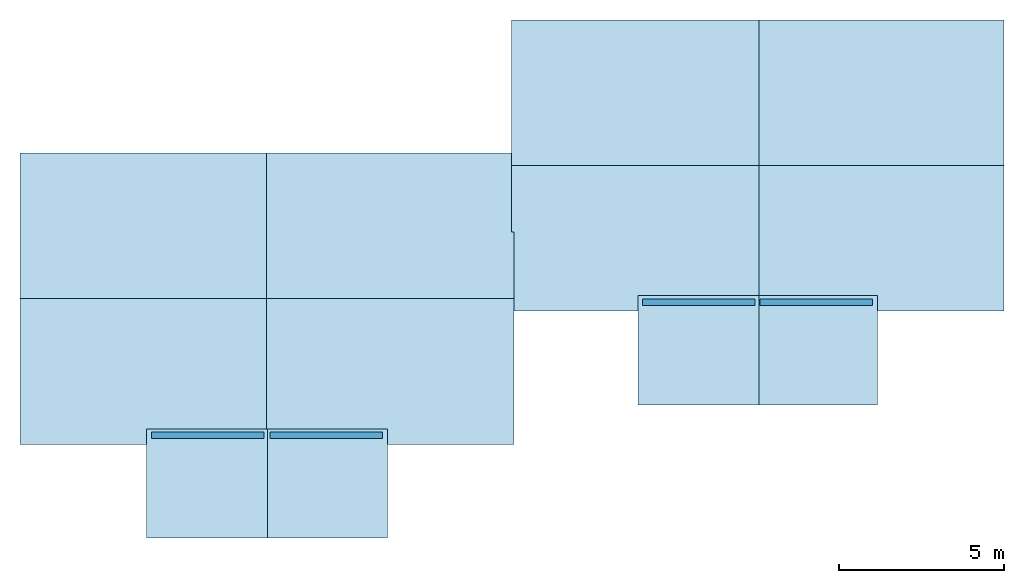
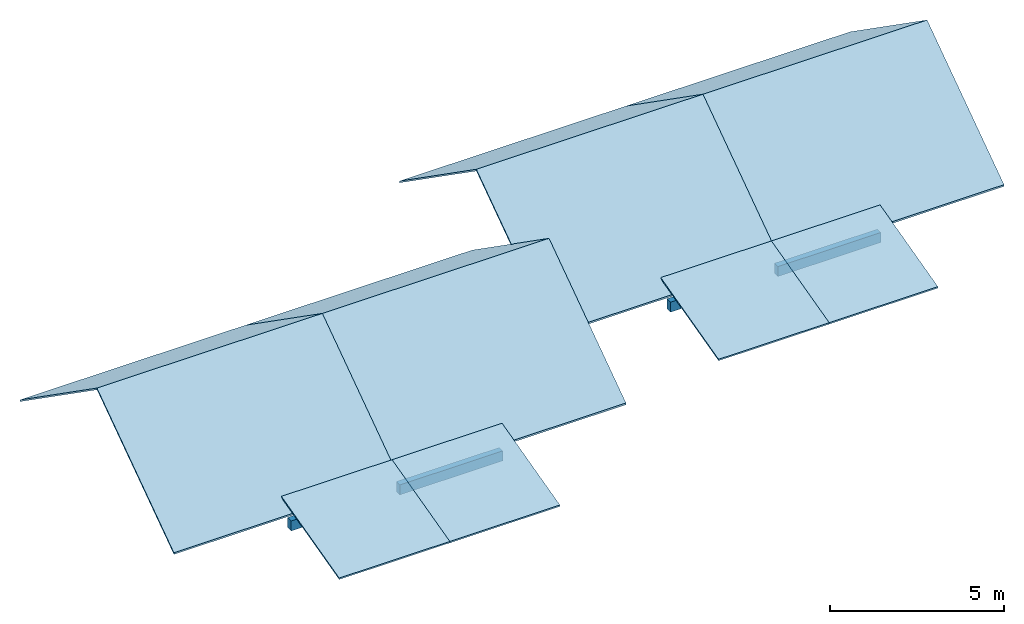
# One storey: 12 slabs, 4 beams, 8 elements without a shape of their own.
"""IFC2X3 building model written with IfcOpenShell, lengths in metres."""

from ifc_helpers import new_model, entity, si_unit, converted_unit, derived_unit, direction, frame, frame_2d, origin, origin_2d_with_axis, place, context, subcontext, project, spatial, rectangle, extrude, material, layer, layer_set, element, aggregate, save


model = new_model("IFC2X3")

# Units and contexts
model_context = context("Model", 3, precision=1e-05, world=origin(), true_north=direction((6.12303176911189e-17, 1.0)))
context_of_model = context(None, 3, precision=1e-05, world=origin(), true_north=direction((6.12303176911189e-17, 1.0)))
body_context = subcontext(model_context, "Body", "Model", "MODEL_VIEW")
ifc_project = project(units=[si_unit("LENGTHUNIT", "METRE"), si_unit("AREAUNIT", "SQUARE_METRE"), si_unit("VOLUMEUNIT", "CUBIC_METRE"), converted_unit("PLANEANGLEUNIT", "DEGREE", entity("IfcRatioMeasure", 0.0174532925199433), si_unit("PLANEANGLEUNIT", "RADIAN"), dimensions=[0, 0, 0, 0, 0, 0, 0]), si_unit("MASSUNIT", "GRAM", prefix="KILO"), si_unit("TIMEUNIT", "SECOND"), si_unit("FREQUENCYUNIT", "HERTZ"), si_unit("THERMODYNAMICTEMPERATUREUNIT", "DEGREE_CELSIUS"), derived_unit("THERMALTRANSMITTANCEUNIT", [(si_unit("MASSUNIT", "GRAM", prefix="KILO"), 1), (si_unit("THERMODYNAMICTEMPERATUREUNIT", "KELVIN"), -1), (si_unit("TIMEUNIT", "SECOND"), -3)]), derived_unit("VOLUMETRICFLOWRATEUNIT", [(si_unit("LENGTHUNIT", "METRE"), 3), (si_unit("TIMEUNIT", "SECOND"), -1)]), si_unit("ELECTRICCURRENTUNIT", "AMPERE"), si_unit("ELECTRICVOLTAGEUNIT", "VOLT"), si_unit("POWERUNIT", "WATT"), si_unit("FORCEUNIT", "NEWTON", prefix="KILO"), si_unit("ILLUMINANCEUNIT", "LUX"), si_unit("LUMINOUSFLUXUNIT", "LUMEN"), si_unit("LUMINOUSINTENSITYUNIT", "CANDELA"), si_unit("PRESSUREUNIT", "PASCAL")], contexts=[model_context, context_of_model])

# Site, building, storey
site_placement = place(None, origin())
site = spatial("IfcSite", under=ifc_project, at=site_placement, Name="Surface", CompositionType="ELEMENT")
building_placement = place(site_placement, origin())
building = spatial("IfcBuilding", under=site, at=building_placement, CompositionType="ELEMENT")
storey_placement = place(building_placement, frame((0.0, 0.0, 5.64)))
storey = spatial("IfcBuildingStorey", under=building, at=storey_placement, Name="Egout", CompositionType="ELEMENT", Elevation=5.64)

# Beams
ifc_material_1 = material(Name="Béton - Béton coulé sur place")
beam_1_placement = place(storey_placement, frame((87.2067857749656, 84.0475239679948, 0.0699999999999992), z_axis=(0.0, 0.0, 1.0), x_axis=(-1.0, 0.0, 0.0)))
element("IfcBeam", 1, at=beam_1_placement, inside=storey, material=ifc_material_1, Name="Poutre rectangulaire - Béton:20 x 35 ht", ObjectType="Poutre rectangulaire - Béton:20 x 35 ht", context=body_context, shape_type="SweptSolid", body=[
    extrude(rectangle(XDim=0.35, YDim=0.199999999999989, at=frame_2d((-5.41233724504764e-16, -1.73264180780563e-14), x_axis=(1.0, 0.0))), frame((-0.012700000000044, 0.0, -0.175000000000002), z_axis=(1.0, 0.0, 0.0), x_axis=(0.0, 0.0, -1.0)), (0.0, 0.0, 1.0), 3.4154),
])
beam_2_placement = place(storey_placement, frame((72.334626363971, 80.0077566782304, 0.0699999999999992), z_axis=(0.0, 0.0, 1.0), x_axis=(-1.0, 0.0, 0.0)))
element("IfcBeam", 2, at=beam_2_placement, inside=storey, material=ifc_material_1, Name="Poutre rectangulaire - Béton:20 x 35 ht", ObjectType="Poutre rectangulaire - Béton:20 x 35 ht", context=body_context, shape_type="SweptSolid", body=[
    extrude(rectangle(XDim=0.35, YDim=0.199999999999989, at=frame_2d((-5.41233724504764e-16, -1.73264180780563e-14), x_axis=(1.0, 0.0))), frame((-0.0127000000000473, 0.0, -0.175000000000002), z_axis=(1.0, 0.0, 0.0), x_axis=(0.0, 0.0, -1.0)), (0.0, 0.0, 1.0), 3.4154),
])
beam_3_placement = place(storey_placement, frame((65.3346263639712, 80.0077566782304, 0.0699999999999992)))
element("IfcBeam", 3, at=beam_3_placement, inside=storey, material=ifc_material_1, Name="Poutre rectangulaire - Béton:20 x 35 ht", ObjectType="Poutre rectangulaire - Béton:20 x 35 ht", context=body_context, shape_type="SweptSolid", body=[
    extrude(rectangle(XDim=0.35, YDim=0.199999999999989, at=frame_2d((-5.41233724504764e-16, 1.73264180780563e-14), x_axis=(1.0, 0.0))), frame((-0.0127000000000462, 0.0, -0.175000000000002), z_axis=(1.0, 0.0, 0.0), x_axis=(0.0, 0.0, -1.0)), (0.0, 0.0, 1.0), 3.4154),
])
beam_4_placement = place(storey_placement, frame((80.2510189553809, 84.0475239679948, 0.0699999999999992)))
element("IfcBeam", 4, at=beam_4_placement, inside=storey, material=ifc_material_1, Name="Poutre rectangulaire - Béton:20 x 35 ht", ObjectType="Poutre rectangulaire - Béton:20 x 35 ht", context=body_context, shape_type="SweptSolid", body=[
    extrude(rectangle(XDim=0.35, YDim=0.199999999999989, at=frame_2d((-5.41233724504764e-16, 1.73264180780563e-14), x_axis=(1.0, 0.0))), frame((-0.012700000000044, 0.0, -0.175000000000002), z_axis=(1.0, 0.0, 0.0), x_axis=(0.0, 0.0, -1.0)), (0.0, 0.0, 1.0), 3.4154),
])

# Roof, slabs
roof_1_placement = place(storey_placement, frame((68.8142429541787, 79.7377566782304, 0.39496886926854)))
roof_1 = element("IfcRoof", 5, at=roof_1_placement, inside=storey, Name="Toit de base:Toit - 100 brun  gris", ObjectType="Toit de base:Toit - 100 brun  gris", ShapeType="NOTDEFINED")
ifc_material_2 = material(Name="gris")
ifc_layer = layer(ifc_material_2, 0.05)
ifc_layer_set = layer_set([ifc_layer], Name="Toit de base:Toit - 100 brun  gris")
slab_1_placement = place(roof_1_placement, origin())
slab_1 = element("IfcSlab", 6, at=slab_1_placement, material=ifc_layer_set, Name="Toit de base:Toit - 100 brun  gris", ObjectType="Toit de base:Toit - 100 brun  gris", PredefinedType="ROOF", context=body_context, shape_type="SweptSolid", body=[
    extrude(rectangle(XDim=5.39582368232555, YDim=7.51864635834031, at=frame_2d((-4.21884749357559e-15, 0.0), x_axis=(0.0, -1.0))), frame((3.75932317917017, 6.63, 1.54745865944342), z_axis=(0.0, 0.573576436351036, 0.819152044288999), x_axis=(1.0, 0.0, 0.0)), (0.0, -0.573576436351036, 0.819152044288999), 0.0610387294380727),
])
slab_2_placement = place(roof_1_placement, origin())
slab_2 = element("IfcSlab", 7, at=slab_2_placement, material=ifc_layer_set, Name="Toit de base:Toit - 100 brun  gris", ObjectType="Toit de base:Toit - 100 brun  gris", PredefinedType="ROOF", context=body_context, shape_type="SweptSolid", body=[
    extrude(rectangle(XDim=7.51864635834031, YDim=5.39582368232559, at=frame_2d((4.44089209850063e-15, 2.22044604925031e-16), x_axis=(-1.0, 0.0))), frame((3.75932317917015, 2.21000000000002, 1.54745865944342), z_axis=(0.0, -0.573576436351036, 0.819152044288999), x_axis=(1.0, 0.0, 0.0)), (0.0, 0.573576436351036, 0.819152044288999), 0.0610387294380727),
])
aggregate(roof_1, [slab_1, slab_2])

# Roof, slab
roof_2_placement = place(storey_placement, frame((68.8242429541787, 76.8877566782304, -0.0999999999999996)))
roof_2 = element("IfcRoof", 8, at=roof_2_placement, inside=storey, Name="Toit de base:Toit - 100 brun  gris", ObjectType="Toit de base:Toit - 100 brun  gris", ShapeType="NOTDEFINED")
slab_3_placement = place(roof_2_placement, origin())
slab_3 = element("IfcSlab", 9, at=slab_3_placement, material=ifc_layer_set, Name="Toit de base:Toit - 100 brun  gris", ObjectType="Toit de base:Toit - 100 brun  gris", PredefinedType="ROOF", context=body_context, shape_type="SweptSolid", body=[
    extrude(rectangle(XDim=3.67038340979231, YDim=3.42784611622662, at=frame_2d((0.0, -1.7874590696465e-14), x_axis=(1.0, 0.0))), frame((1.83519170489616, 1.66000000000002, 0.426535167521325), z_axis=(0.0, -0.248864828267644, 0.968538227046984), x_axis=(1.0, 0.0, 0.0)), (0.0, 0.248864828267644, 0.968538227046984), 0.0516241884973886),
])
aggregate(roof_2, [slab_3])

# Roof, slabs
roof_3_placement = place(storey_placement, frame((61.3363634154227, 79.7377566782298, 0.394968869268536)))
roof_3 = element("IfcRoof", 10, at=roof_3_placement, inside=storey, Name="Toit de base:Toit - 100 brun  gris", ObjectType="Toit de base:Toit - 100 brun  gris", ShapeType="NOTDEFINED")
slab_4_placement = place(roof_3_placement, origin())
slab_4 = element("IfcSlab", 11, at=slab_4_placement, material=ifc_layer_set, Name="Toit de base:Toit - 100 brun  gris", ObjectType="Toit de base:Toit - 100 brun  gris", PredefinedType="ROOF", context=body_context, shape_type="SweptSolid", body=[
    extrude(rectangle(XDim=7.51864635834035, YDim=5.39582368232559, at=frame_2d((-4.21884749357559e-15, 0.0), x_axis=(1.0, 0.0))), frame((3.7593231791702, 6.63000000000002, 1.54745865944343), z_axis=(0.0, 0.573576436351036, 0.819152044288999), x_axis=(1.0, 0.0, 0.0)), (0.0, -0.573576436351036, 0.819152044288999), 0.0610387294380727),
])
slab_5_placement = place(roof_3_placement, origin())
slab_5 = element("IfcSlab", 12, at=slab_5_placement, material=ifc_layer_set, Name="Toit de base:Toit - 100 brun  gris", ObjectType="Toit de base:Toit - 100 brun  gris", PredefinedType="ROOF", context=body_context, shape_type="SweptSolid", body=[
    extrude(rectangle(XDim=5.39582368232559, YDim=7.51864635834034, at=frame_2d((4.44089209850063e-15, -1.06581410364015e-14), x_axis=(0.0, 1.0))), frame((3.75932317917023, 2.21000000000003, 1.54745865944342), z_axis=(0.0, -0.573576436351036, 0.819152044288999), x_axis=(1.0, 0.0, 0.0)), (0.0, 0.573576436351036, 0.819152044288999), 0.0610387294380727),
])
aggregate(roof_3, [slab_4, slab_5])

# Roof, slab
roof_4_placement = place(storey_placement, frame((65.1746263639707, 76.8877566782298, -0.100000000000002)))
roof_4 = element("IfcRoof", 13, at=roof_4_placement, inside=storey, Name="Toit de base:Toit - 100 brun  gris", ObjectType="Toit de base:Toit - 100 brun  gris", ShapeType="NOTDEFINED")
slab_6_placement = place(roof_4_placement, origin())
slab_6 = element("IfcSlab", 14, at=slab_6_placement, material=ifc_layer_set, Name="Toit de base:Toit - 100 brun  gris", ObjectType="Toit de base:Toit - 100 brun  gris", PredefinedType="ROOF", context=body_context, shape_type="SweptSolid", body=[
    extrude(rectangle(XDim=3.6703834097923, YDim=3.42784611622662, at=frame_2d((-4.32986979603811e-15, -8.99280649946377e-15), x_axis=(-1.0, 0.0))), frame((1.83519170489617, 1.66000000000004, 0.426535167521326), z_axis=(0.0, -0.248864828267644, 0.968538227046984), x_axis=(1.0, 0.0, 0.0)), (0.0, 0.248864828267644, 0.968538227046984), 0.0516241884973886),
])
aggregate(roof_4, [slab_6])

# Roof, slabs
roof_5_placement = place(storey_placement, frame((83.6864023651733, 83.7775239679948, 0.39496886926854)))
roof_5 = element("IfcRoof", 15, at=roof_5_placement, inside=storey, Name="Toit de base:Toit - 100 brun  gris", ObjectType="Toit de base:Toit - 100 brun  gris", ShapeType="NOTDEFINED")
slab_7_placement = place(roof_5_placement, origin())
slab_7 = element("IfcSlab", 16, at=slab_7_placement, material=ifc_layer_set, Name="Toit de base:Toit - 100 brun  gris", ObjectType="Toit de base:Toit - 100 brun  gris", PredefinedType="ROOF", context=body_context, shape_type="SweptSolid", body=[
    extrude(rectangle(XDim=5.39582368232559, YDim=7.51864635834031, at=frame_2d((0.0, -4.44089209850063e-16), x_axis=(0.0, -1.0))), frame((3.75932317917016, 6.63, 1.54745865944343), z_axis=(0.0, 0.573576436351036, 0.819152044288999), x_axis=(1.0, 0.0, 0.0)), (0.0, -0.573576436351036, 0.819152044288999), 0.0610387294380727),
])
slab_8_placement = place(roof_5_placement, origin())
slab_8 = element("IfcSlab", 17, at=slab_8_placement, material=ifc_layer_set, Name="Toit de base:Toit - 100 brun  gris", ObjectType="Toit de base:Toit - 100 brun  gris", PredefinedType="ROOF", context=body_context, shape_type="SweptSolid", body=[
    extrude(rectangle(XDim=7.51864635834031, YDim=5.39582368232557, at=frame_2d((-8.65973959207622e-15, -1.04360964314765e-14), x_axis=(-1.0, 0.0))), frame((3.75932317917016, 2.21000000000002, 1.54745865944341), z_axis=(0.0, -0.573576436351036, 0.819152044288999), x_axis=(1.0, 0.0, 0.0)), (0.0, 0.573576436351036, 0.819152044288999), 0.0610387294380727),
])
aggregate(roof_5, [slab_7, slab_8])

# Roof, slab
roof_6_placement = place(storey_placement, frame((83.6964023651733, 80.9275239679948, -0.0999999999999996)))
roof_6 = element("IfcRoof", 18, at=roof_6_placement, inside=storey, Name="Toit de base:Toit - 100 brun  gris", ObjectType="Toit de base:Toit - 100 brun  gris", ShapeType="NOTDEFINED")
slab_9_placement = place(roof_6_placement, origin())
slab_9 = element("IfcSlab", 19, at=slab_9_placement, material=ifc_layer_set, Name="Toit de base:Toit - 100 brun  gris", ObjectType="Toit de base:Toit - 100 brun  gris", PredefinedType="ROOF", context=body_context, shape_type="SweptSolid", body=[
    extrude(rectangle(XDim=3.67038340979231, YDim=3.42784611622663, at=origin_2d_with_axis()), frame((1.83519170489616, 1.66, 0.426535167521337), z_axis=(0.0, -0.248864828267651, 0.968538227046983), x_axis=(1.0, 0.0, 0.0)), (0.0, 0.248864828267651, 0.968538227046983), 0.0516241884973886),
])
aggregate(roof_6, [slab_9])

# Roof, slabs
roof_7_placement = place(storey_placement, frame((76.252756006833, 83.7775239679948, 0.394968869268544)))
roof_7 = element("IfcRoof", 20, at=roof_7_placement, inside=storey, Name="Toit de base:Toit - 100 brun  gris", ObjectType="Toit de base:Toit - 100 brun  gris", ShapeType="NOTDEFINED")
slab_10_placement = place(roof_7_placement, origin())
slab_10 = element("IfcSlab", 21, at=slab_10_placement, material=ifc_layer_set, Name="Toit de base:Toit - 100 brun  gris", ObjectType="Toit de base:Toit - 100 brun  gris", PredefinedType="ROOF", context=body_context, shape_type="SweptSolid", body=[
    extrude(rectangle(XDim=7.5186463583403, YDim=5.39582368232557, at=frame_2d((-4.21884749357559e-15, 0.0), x_axis=(1.0, 0.0))), frame((3.75932317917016, 6.63000000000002, 1.54745865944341), z_axis=(0.0, 0.573576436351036, 0.819152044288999), x_axis=(1.0, 0.0, 0.0)), (0.0, -0.573576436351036, 0.819152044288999), 0.0610387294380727),
])
slab_11_placement = place(roof_7_placement, origin())
slab_11 = element("IfcSlab", 22, at=slab_11_placement, material=ifc_layer_set, Name="Toit de base:Toit - 100 brun  gris", ObjectType="Toit de base:Toit - 100 brun  gris", PredefinedType="ROOF", context=body_context, shape_type="SweptSolid", body=[
    extrude(rectangle(XDim=5.39582368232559, YDim=7.51864635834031, at=frame_2d((4.44089209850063e-15, 1.08801856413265e-14), x_axis=(0.0, 1.0))), frame((3.75932317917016, 2.21000000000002, 1.54745865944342), z_axis=(0.0, -0.573576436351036, 0.819152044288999), x_axis=(1.0, 0.0, 0.0)), (0.0, 0.573576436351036, 0.819152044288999), 0.0610387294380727),
])
aggregate(roof_7, [slab_10, slab_11])

# Roof, slab
roof_8_placement = place(storey_placement, frame((80.0910189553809, 80.9275239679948, -0.0999999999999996)))
roof_8 = element("IfcRoof", 23, at=roof_8_placement, inside=storey, Name="Toit de base:Toit - 100 brun  gris", ObjectType="Toit de base:Toit - 100 brun  gris", ShapeType="NOTDEFINED")
slab_12_placement = place(roof_8_placement, origin())
slab_12 = element("IfcSlab", 24, at=slab_12_placement, material=ifc_layer_set, Name="Toit de base:Toit - 100 brun  gris", ObjectType="Toit de base:Toit - 100 brun  gris", PredefinedType="ROOF", context=body_context, shape_type="SweptSolid", body=[
    extrude(rectangle(XDim=3.67038340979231, YDim=3.42784611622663, at=frame_2d((0.0, 8.88178419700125e-15), x_axis=(-1.0, 0.0))), frame((1.83519170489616, 1.66, 0.426535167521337), z_axis=(0.0, -0.248864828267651, 0.968538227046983), x_axis=(1.0, 0.0, 0.0)), (0.0, 0.248864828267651, 0.968538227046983), 0.0516241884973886),
])
aggregate(roof_8, [slab_12])

save(model, "model.ifc")
